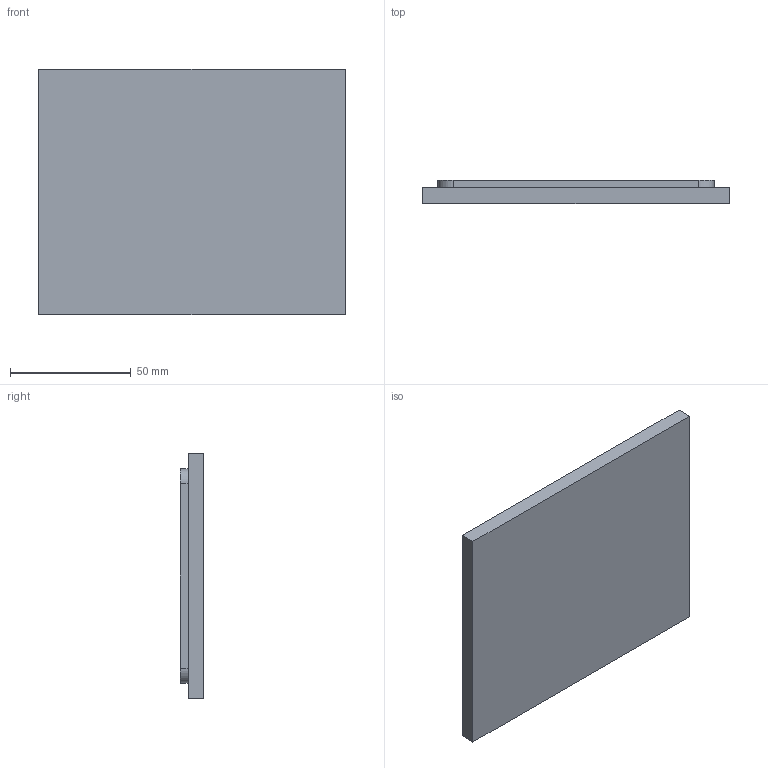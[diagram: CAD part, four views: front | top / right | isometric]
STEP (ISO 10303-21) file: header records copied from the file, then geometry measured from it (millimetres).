
FILE_DESCRIPTION (( 'STEP AP203' ), '1' );
FILE_NAME ('Laser Top.STEP', '2023-09-27T21:18:54', ( '' ), ( '' ), 'SwSTEP 2.0', 'SolidWorks 2023', '' );
FILE_SCHEMA (( 'CONFIG_CONTROL_DESIGN' ));
Length unit declared in the file: inch
Products named in the file (1): Laser Top
Bounding box: 127 x 9.53 x 101.6 mm (x, y, z)
Volume: 114087.5 mm3; surface area: 29965.3 mm2
Topology: 1 solids, 1 shells, 15 faces, 36 edges, 24 vertices
Faces by surface type: plane 11, cylinder 4
Entity records: 517 total; most frequent: CARTESIAN_POINT 76, DIRECTION 76, ORIENTED_EDGE 72, EDGE_CURVE 36, LINE 28, VECTOR 28, VERTEX_POINT 24, AXIS2_PLACEMENT_3D 24
